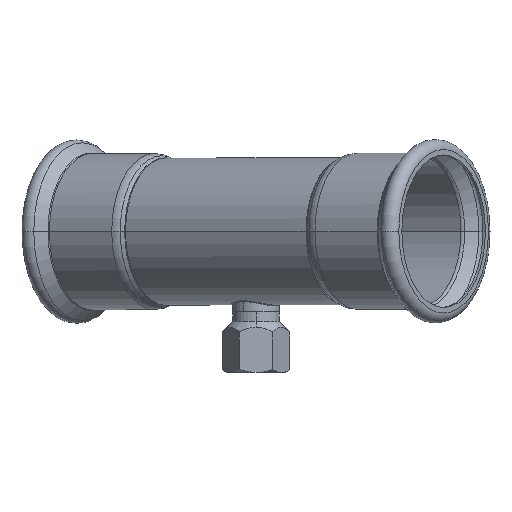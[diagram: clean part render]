
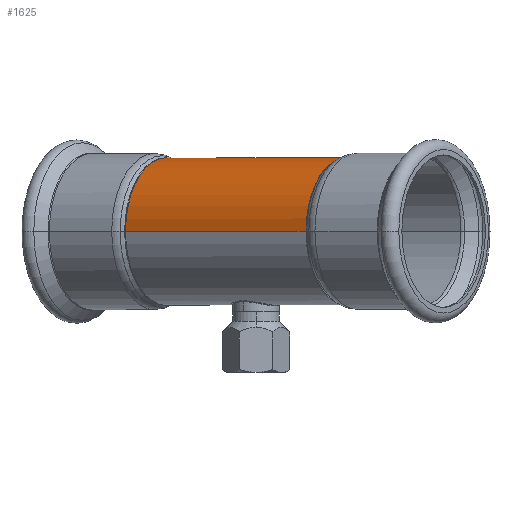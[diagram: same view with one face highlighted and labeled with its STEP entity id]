
A CAD part, top view. The second image highlights one B-rep face of the part: STEP entity #1625.
In plain terms, the highlighted cylindrical face has radius 37.55 mm (diameter 75.1 mm), a partial arc.
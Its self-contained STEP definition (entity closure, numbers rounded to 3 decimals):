
#50 = VECTOR ( 'NONE', #3729, 1000. ) ;
#249 = VERTEX_POINT ( 'NONE', #2397 ) ;
#274 = CYLINDRICAL_SURFACE ( 'NONE', #3255, 37.55 ) ;
#353 = DIRECTION ( 'NONE',  ( -1., 0., 0. ) ) ;
#385 = CIRCLE ( 'NONE', #871, 37.55 ) ;
#407 = VERTEX_POINT ( 'NONE', #2292 ) ;
#411 = VERTEX_POINT ( 'NONE', #1362 ) ;
#413 = DIRECTION ( 'NONE',  ( -1., 0., 0. ) ) ;
#421 = EDGE_CURVE ( 'NONE', #411, #407, #3470, .T. ) ;
#441 = ORIENTED_EDGE ( 'NONE', *, *, #4081, .F. ) ;
#871 = AXIS2_PLACEMENT_3D ( 'NONE', #2097, #1452, #3068 ) ;
#1110 = CIRCLE ( 'NONE', #2997, 37.55 ) ;
#1183 = VERTEX_POINT ( 'NONE', #1532 ) ;
#1283 = CARTESIAN_POINT ( 'NONE',  ( -55.056, 0., 0. ) ) ;
#1362 = CARTESIAN_POINT ( 'NONE',  ( 55.056, 0., 37.55 ) ) ;
#1452 = DIRECTION ( 'NONE',  ( -1., 0., 0. ) ) ;
#1471 = LINE ( 'NONE', #3698, #50 ) ;
#1532 = CARTESIAN_POINT ( 'NONE',  ( -55.056, 0., -37.55 ) ) ;
#1543 = ORIENTED_EDGE ( 'NONE', *, *, #421, .T. ) ;
#1625 = ADVANCED_FACE ( 'NONE', ( #4141 ), #274, .T. ) ;
#1702 = CARTESIAN_POINT ( 'NONE',  ( 27.146, 0., 0. ) ) ;
#1777 = EDGE_CURVE ( 'NONE', #249, #411, #385, .T. ) ;
#1968 = VECTOR ( 'NONE', #413, 1000. ) ;
#2097 = CARTESIAN_POINT ( 'NONE',  ( 55.056, 0., 0. ) ) ;
#2292 = CARTESIAN_POINT ( 'NONE',  ( -55.056, 0., 37.55 ) ) ;
#2356 = ORIENTED_EDGE ( 'NONE', *, *, #3314, .F. ) ;
#2397 = CARTESIAN_POINT ( 'NONE',  ( 55.056, 0., -37.55 ) ) ;
#2619 = DIRECTION ( 'NONE',  ( 0., 0., 1. ) ) ;
#2644 = CARTESIAN_POINT ( 'NONE',  ( 27.146, 0., 37.55 ) ) ;
#2652 = ORIENTED_EDGE ( 'NONE', *, *, #1777, .T. ) ;
#2997 = AXIS2_PLACEMENT_3D ( 'NONE', #1283, #353, #2619 ) ;
#3068 = DIRECTION ( 'NONE',  ( 0., 0., 1. ) ) ;
#3255 = AXIS2_PLACEMENT_3D ( 'NONE', #1702, #3336, #3999 ) ;
#3314 = EDGE_CURVE ( 'NONE', #1183, #407, #1110, .T. ) ;
#3336 = DIRECTION ( 'NONE',  ( -1., 0., 0. ) ) ;
#3470 = LINE ( 'NONE', #2644, #1968 ) ;
#3698 = CARTESIAN_POINT ( 'NONE',  ( 27.146, 0., -37.55 ) ) ;
#3729 = DIRECTION ( 'NONE',  ( -1., 0., 0. ) ) ;
#3850 = EDGE_LOOP ( 'NONE', ( #441, #2652, #1543, #2356 ) ) ;
#3999 = DIRECTION ( 'NONE',  ( 0., 0., 1. ) ) ;
#4081 = EDGE_CURVE ( 'NONE', #249, #1183, #1471, .T. ) ;
#4141 = FACE_OUTER_BOUND ( 'NONE', #3850, .T. ) ;
